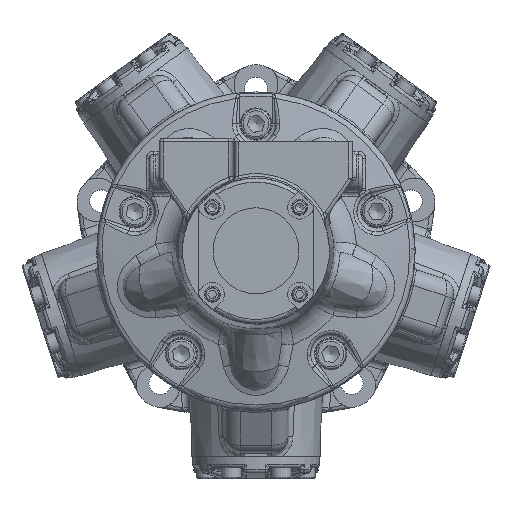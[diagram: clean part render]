
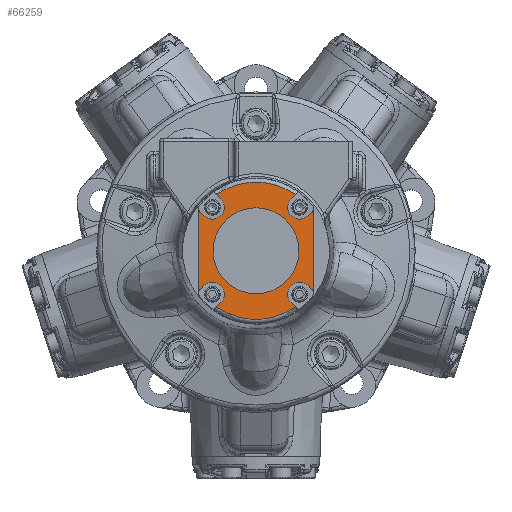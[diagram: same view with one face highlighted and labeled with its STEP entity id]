
A CAD part, top view. The second image highlights one B-rep face of the part: STEP entity #66259.
In plain terms, the highlighted planar face has unit normal (0, 0, 1).
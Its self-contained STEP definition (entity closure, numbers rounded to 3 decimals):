
#2844=FACE_BOUND('',#17948,.T.);
#3047=LINE('',#89970,#5964);
#3048=LINE('',#89972,#5965);
#3049=LINE('',#89976,#5966);
#3050=LINE('',#89980,#5967);
#3051=LINE('',#89984,#5968);
#3052=LINE('',#89988,#5969);
#3053=LINE('',#89992,#5970);
#3054=LINE('',#89996,#5971);
#3055=LINE('',#90000,#5972);
#3056=LINE('',#90004,#5973);
#5964=VECTOR('',#76033,10.);
#5965=VECTOR('',#76034,10.);
#5966=VECTOR('',#76037,10.);
#5967=VECTOR('',#76040,10.);
#5968=VECTOR('',#76043,10.);
#5969=VECTOR('',#76046,10.);
#5970=VECTOR('',#76049,10.);
#5971=VECTOR('',#76052,10.);
#5972=VECTOR('',#76055,10.);
#5973=VECTOR('',#76058,10.);
#13723=FACE_OUTER_BOUND('',#17947,.T.);
#17947=EDGE_LOOP('',(#41040,#41041,#41042,#41043,#41044,#41045,#41046,#41047,
#41048,#41049,#41050,#41051,#41052,#41053,#41054,#41055,#41056,#41057,#41058,
#41059));
#17948=EDGE_LOOP('',(#41060));
#22370=CIRCLE('',#70507,54.769);
#22372=CIRCLE('',#70511,34.29);
#22375=CIRCLE('',#70516,9.525);
#22376=CIRCLE('',#70517,54.769);
#22377=CIRCLE('',#70518,54.769);
#22378=CIRCLE('',#70519,9.525);
#22379=CIRCLE('',#70520,54.769);
#22380=CIRCLE('',#70521,9.525);
#22381=CIRCLE('',#70522,54.769);
#22382=CIRCLE('',#70523,54.769);
#22383=CIRCLE('',#70524,9.525);
#25037=VERTEX_POINT('',#89920);
#25040=VERTEX_POINT('',#89934);
#25042=VERTEX_POINT('',#89950);
#25047=VERTEX_POINT('',#89969);
#25048=VERTEX_POINT('',#89971);
#25049=VERTEX_POINT('',#89973);
#25050=VERTEX_POINT('',#89975);
#25051=VERTEX_POINT('',#89977);
#25052=VERTEX_POINT('',#89979);
#25053=VERTEX_POINT('',#89981);
#25054=VERTEX_POINT('',#89983);
#25055=VERTEX_POINT('',#89985);
#25056=VERTEX_POINT('',#89987);
#25057=VERTEX_POINT('',#89989);
#25058=VERTEX_POINT('',#89991);
#25059=VERTEX_POINT('',#89993);
#25060=VERTEX_POINT('',#89995);
#25061=VERTEX_POINT('',#89997);
#25062=VERTEX_POINT('',#89999);
#25063=VERTEX_POINT('',#90001);
#25064=VERTEX_POINT('',#90003);
#31020=EDGE_CURVE('',#25040,#25037,#22370,.T.);
#31022=EDGE_CURVE('',#25042,#25042,#22372,.T.);
#31028=EDGE_CURVE('',#25047,#25037,#3047,.T.);
#31029=EDGE_CURVE('',#25040,#25048,#3048,.T.);
#31030=EDGE_CURVE('',#25048,#25049,#22375,.T.);
#31031=EDGE_CURVE('',#25049,#25050,#3049,.T.);
#31032=EDGE_CURVE('',#25051,#25050,#22376,.T.);
#31033=EDGE_CURVE('',#25051,#25052,#3050,.T.);
#31034=EDGE_CURVE('',#25053,#25052,#22377,.T.);
#31035=EDGE_CURVE('',#25053,#25054,#3051,.T.);
#31036=EDGE_CURVE('',#25054,#25055,#22378,.T.);
#31037=EDGE_CURVE('',#25055,#25056,#3052,.T.);
#31038=EDGE_CURVE('',#25057,#25056,#22379,.T.);
#31039=EDGE_CURVE('',#25057,#25058,#3053,.T.);
#31040=EDGE_CURVE('',#25058,#25059,#22380,.T.);
#31041=EDGE_CURVE('',#25059,#25060,#3054,.T.);
#31042=EDGE_CURVE('',#25061,#25060,#22381,.T.);
#31043=EDGE_CURVE('',#25061,#25062,#3055,.T.);
#31044=EDGE_CURVE('',#25063,#25062,#22382,.T.);
#31045=EDGE_CURVE('',#25063,#25064,#3056,.T.);
#31046=EDGE_CURVE('',#25064,#25047,#22383,.T.);
#41040=ORIENTED_EDGE('',*,*,#31028,.T.);
#41041=ORIENTED_EDGE('',*,*,#31020,.F.);
#41042=ORIENTED_EDGE('',*,*,#31029,.T.);
#41043=ORIENTED_EDGE('',*,*,#31030,.T.);
#41044=ORIENTED_EDGE('',*,*,#31031,.T.);
#41045=ORIENTED_EDGE('',*,*,#31032,.F.);
#41046=ORIENTED_EDGE('',*,*,#31033,.T.);
#41047=ORIENTED_EDGE('',*,*,#31034,.F.);
#41048=ORIENTED_EDGE('',*,*,#31035,.T.);
#41049=ORIENTED_EDGE('',*,*,#31036,.T.);
#41050=ORIENTED_EDGE('',*,*,#31037,.T.);
#41051=ORIENTED_EDGE('',*,*,#31038,.F.);
#41052=ORIENTED_EDGE('',*,*,#31039,.T.);
#41053=ORIENTED_EDGE('',*,*,#31040,.T.);
#41054=ORIENTED_EDGE('',*,*,#31041,.T.);
#41055=ORIENTED_EDGE('',*,*,#31042,.F.);
#41056=ORIENTED_EDGE('',*,*,#31043,.T.);
#41057=ORIENTED_EDGE('',*,*,#31044,.F.);
#41058=ORIENTED_EDGE('',*,*,#31045,.T.);
#41059=ORIENTED_EDGE('',*,*,#31046,.T.);
#41060=ORIENTED_EDGE('',*,*,#31022,.T.);
#61048=PLANE('',#70515);
#66259=ADVANCED_FACE('',(#13723,#2844),#61048,.T.);
#70507=AXIS2_PLACEMENT_3D('',#89945,#76014,#76015);
#70511=AXIS2_PLACEMENT_3D('',#89951,#76022,#76023);
#70515=AXIS2_PLACEMENT_3D('',#89968,#76031,#76032);
#70516=AXIS2_PLACEMENT_3D('',#89974,#76035,#76036);
#70517=AXIS2_PLACEMENT_3D('',#89978,#76038,#76039);
#70518=AXIS2_PLACEMENT_3D('',#89982,#76041,#76042);
#70519=AXIS2_PLACEMENT_3D('',#89986,#76044,#76045);
#70520=AXIS2_PLACEMENT_3D('',#89990,#76047,#76048);
#70521=AXIS2_PLACEMENT_3D('',#89994,#76050,#76051);
#70522=AXIS2_PLACEMENT_3D('',#89998,#76053,#76054);
#70523=AXIS2_PLACEMENT_3D('',#90002,#76056,#76057);
#70524=AXIS2_PLACEMENT_3D('',#90005,#76059,#76060);
#76014=DIRECTION('center_axis',(0.,0.,
-1.));
#76015=DIRECTION('ref_axis',(0.,1.,0.));
#76022=DIRECTION('center_axis',(0.,0.,
-1.));
#76023=DIRECTION('ref_axis',(0.,-1.,0.));
#76031=DIRECTION('center_axis',(0.,0.,
1.));
#76032=DIRECTION('ref_axis',(0.,1.,0.));
#76033=DIRECTION('',(0.707,0.707,0.));
#76034=DIRECTION('',(0.707,-0.707,0.));
#76035=DIRECTION('center_axis',(0.,0.,
-1.));
#76036=DIRECTION('ref_axis',(-0.707,-0.707,0.));
#76037=DIRECTION('',(-0.707,0.707,0.));
#76038=DIRECTION('center_axis',(0.,0.,
-1.));
#76039=DIRECTION('ref_axis',(0.,1.,0.));
#76040=DIRECTION('',(0.,-1.,0.));
#76041=DIRECTION('center_axis',(0.,0.,
-1.));
#76042=DIRECTION('ref_axis',(0.,1.,0.));
#76043=DIRECTION('',(0.707,0.707,0.));
#76044=DIRECTION('center_axis',(0.,0.,
-1.));
#76045=DIRECTION('ref_axis',(0.707,-0.707,0.));
#76046=DIRECTION('',(-0.707,-0.707,0.));
#76047=DIRECTION('center_axis',(0.,0.,
-1.));
#76048=DIRECTION('ref_axis',(0.,1.,0.));
#76049=DIRECTION('',(-0.707,0.707,0.));
#76050=DIRECTION('center_axis',(0.,0.,
-1.));
#76051=DIRECTION('ref_axis',(0.707,0.707,0.));
#76052=DIRECTION('',(0.707,-0.707,0.));
#76053=DIRECTION('center_axis',(0.,0.,
-1.));
#76054=DIRECTION('ref_axis',(0.,1.,0.));
#76055=DIRECTION('',(0.,1.,0.));
#76056=DIRECTION('center_axis',(0.,0.,
-1.));
#76057=DIRECTION('ref_axis',(0.,1.,0.));
#76058=DIRECTION('',(-0.707,-0.707,0.));
#76059=DIRECTION('center_axis',(0.,0.,
-1.));
#76060=DIRECTION('ref_axis',(-0.707,0.707,0.));
#89920=CARTESIAN_POINT('',(31.402,44.872,295.807));
#89934=CARTESIAN_POINT('',(-31.402,44.872,295.807));
#89945=CARTESIAN_POINT('Origin',(0.,0.,
295.807));
#89950=CARTESIAN_POINT('',(0.,34.29,295.807));
#89951=CARTESIAN_POINT('Origin',(0.,0.,
295.807));
#89968=CARTESIAN_POINT('Origin',(0.,0.,
295.807));
#89969=CARTESIAN_POINT('',(28.063,41.534,295.807));
#89970=CARTESIAN_POINT('',(21.542,35.012,295.807));
#89971=CARTESIAN_POINT('',(-28.063,41.534,295.807));
#89972=CARTESIAN_POINT('',(-10.664,24.134,295.807));
#89973=CARTESIAN_POINT('',(-41.534,28.063,295.807));
#89974=CARTESIAN_POINT('Origin',(-34.798,34.798,295.807));
#89975=CARTESIAN_POINT('',(-44.872,31.402,295.807));
#89976=CARTESIAN_POINT('',(-35.012,21.542,295.807));
#89977=CARTESIAN_POINT('',(-46.038,29.668,295.807));
#89978=CARTESIAN_POINT('Origin',(0.,0.,
295.807));
#89979=CARTESIAN_POINT('',(-46.038,-29.668,295.807));
#89980=CARTESIAN_POINT('',(-46.038,-25.249,295.807));
#89981=CARTESIAN_POINT('',(-44.872,-31.402,295.807));
#89982=CARTESIAN_POINT('Origin',(0.,0.,
295.807));
#89983=CARTESIAN_POINT('',(-41.534,-28.063,295.807));
#89984=CARTESIAN_POINT('',(-24.134,-10.664,295.807));
#89985=CARTESIAN_POINT('',(-28.063,-41.534,295.807));
#89986=CARTESIAN_POINT('Origin',(-34.798,-34.798,295.807));
#89987=CARTESIAN_POINT('',(-31.402,-44.872,295.807));
#89988=CARTESIAN_POINT('',(-21.542,-35.012,295.807));
#89989=CARTESIAN_POINT('',(31.402,-44.872,295.807));
#89990=CARTESIAN_POINT('Origin',(0.,0.,
295.807));
#89991=CARTESIAN_POINT('',(28.063,-41.534,295.807));
#89992=CARTESIAN_POINT('',(10.664,-24.134,295.807));
#89993=CARTESIAN_POINT('',(41.534,-28.063,295.807));
#89994=CARTESIAN_POINT('Origin',(34.798,-34.798,295.807));
#89995=CARTESIAN_POINT('',(44.872,-31.402,295.807));
#89996=CARTESIAN_POINT('',(35.012,-21.542,295.807));
#89997=CARTESIAN_POINT('',(46.037,-29.668,295.807));
#89998=CARTESIAN_POINT('Origin',(0.,0.,
295.807));
#89999=CARTESIAN_POINT('',(46.038,29.668,295.807));
#90000=CARTESIAN_POINT('',(46.038,31.991,295.807));
#90001=CARTESIAN_POINT('',(44.872,31.402,295.807));
#90002=CARTESIAN_POINT('Origin',(0.,0.,
295.807));
#90003=CARTESIAN_POINT('',(41.534,28.063,295.807));
#90004=CARTESIAN_POINT('',(24.134,10.664,295.807));
#90005=CARTESIAN_POINT('Origin',(34.798,34.798,295.807));
